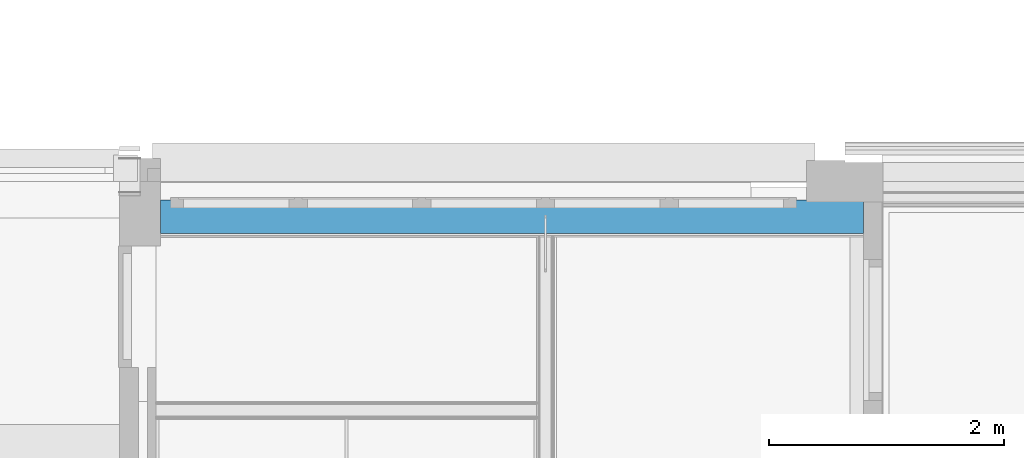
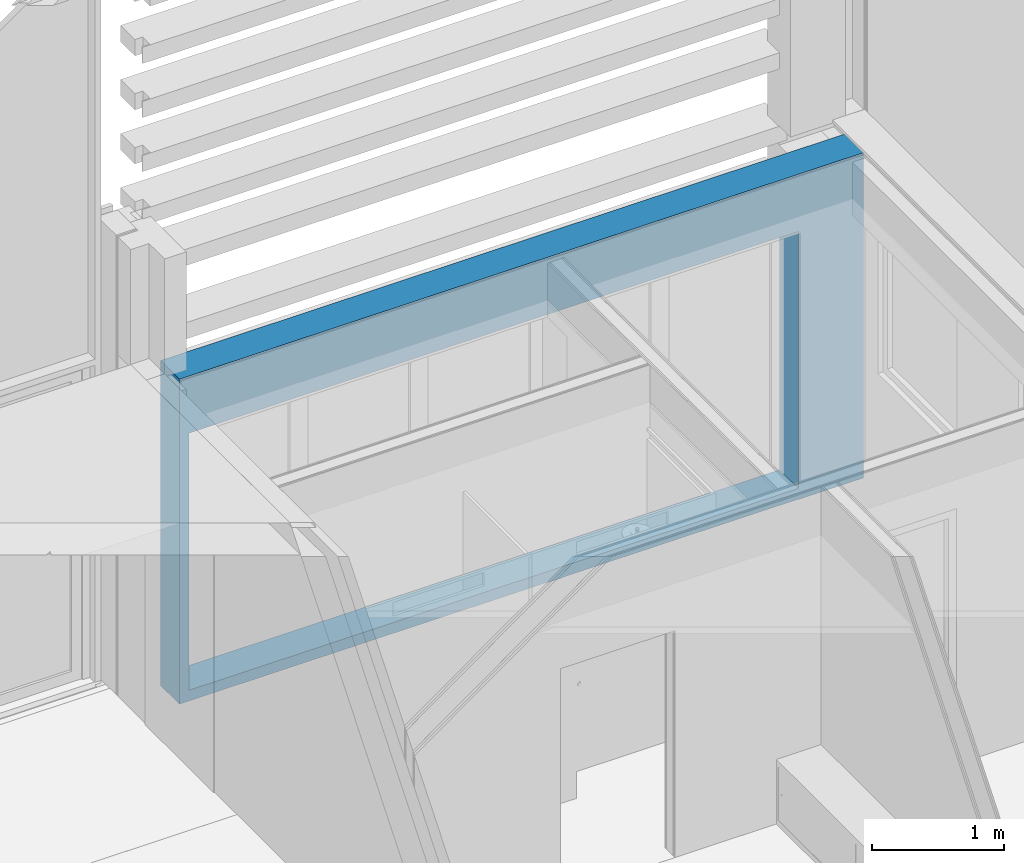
# One storey, part 28 of 109: 1 building element part, 1 opening, 1 element without a shape of its own.
"""IFC2X3 building model written with IfcOpenShell, lengths in millimetres."""

from ifc_helpers import new_model, entity, si_unit, converted_unit, derived_unit, money_unit, direction, frame, origin_with_axes, place, context, subcontext, project, spatial, faceted_brep, material, type_object, element, aggregate, save


model = new_model("IFC2X3")

# Units and contexts
model_context = context("Model", 3, precision=0.01, world=origin_with_axes(), true_north=direction((0.0, 1.0)))
body_context = subcontext(model_context, "Body", "Model", "MODEL_VIEW")
ifc_project = project(units=[si_unit("LENGTHUNIT", "METRE", prefix="MILLI"), si_unit("AREAUNIT", "SQUARE_METRE"), si_unit("VOLUMEUNIT", "CUBIC_METRE"), converted_unit("PLANEANGLEUNIT", "DEGREE", entity("IfcPlaneAngleMeasure", 0.0174532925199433), si_unit("PLANEANGLEUNIT", "RADIAN"), dimensions=[0, 0, 0, 0, 0, 0, 0]), money_unit("EUR"), converted_unit("TIMEUNIT", "Year", entity("IfcTimeMeasure", 31557600.0), si_unit("TIMEUNIT", "SECOND"), dimensions=[0, 0, 1, 0, 0, 0, 0]), si_unit("MASSUNIT", "GRAM", prefix="KILO"), si_unit("THERMODYNAMICTEMPERATUREUNIT", "DEGREE_CELSIUS"), si_unit("LUMINOUSINTENSITYUNIT", "LUMEN"), si_unit("ENERGYUNIT", "JOULE", prefix="MEGA"), derived_unit("THERMALCONDUCTANCEUNIT", [(si_unit("POWERUNIT", "WATT"), 1), (si_unit("LENGTHUNIT", "METRE"), -1), (si_unit("THERMODYNAMICTEMPERATUREUNIT", "KELVIN"), -1)]), derived_unit("SPECIFICHEATCAPACITYUNIT", [(si_unit("ENERGYUNIT", "JOULE"), 1), (si_unit("MASSUNIT", "GRAM", prefix="KILO"), -1), (si_unit("THERMODYNAMICTEMPERATUREUNIT", "KELVIN"), -1)]), derived_unit("MASSDENSITYUNIT", [(si_unit("MASSUNIT", "GRAM", prefix="KILO"), 1), (si_unit("VOLUMEUNIT", "CUBIC_METRE"), -1)])], contexts=[model_context])

# Site, building, storey
site_placement = place(None, origin_with_axes())
site = spatial("IfcSite", under=ifc_project, at=site_placement, Name="<site naam>", CompositionType="ELEMENT")
building_placement = place(site_placement, origin_with_axes())
building = spatial("IfcBuilding", under=site, at=building_placement, Name="<Naam gebouw>", CompositionType="ELEMENT")
storey_placement = place(building_placement, origin_with_axes())
storey = spatial("IfcBuildingStorey", under=building, at=storey_placement, Name="00 Begane grond", CompositionType="ELEMENT", Elevation=0.0)

# Wall, opening, building element part
wall_type = type_object("IfcWallType", Name="HSB_285 zonder gevelbeplating 313", PredefinedType="NOTDEFINED")
wall_placement = place(storey_placement, frame((52175.00000000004, 19840.00019144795, 0.0), z_axis=(0.0, 0.0, 1.0), x_axis=(1.0, 0.0, 0.0)))
wall = element("IfcWall", 1, at=wall_placement, inside=storey, type_object=wall_type, Name="22_Binnenwand_HSB_285")
opening_placement = place(wall_placement, frame((2750.436403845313, 0.0, 102.5), z_axis=(0.0, 0.0, 1.0), x_axis=(1.0, 0.0, 0.0)))
element("IfcOpeningElement", 2, at=opening_placement, cuts=wall, Name="22_BU-B-02_305", context=body_context, shape_type="Brep", body=[
    faceted_brep([(-2664.461586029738, -313.5000000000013, 2377.0), (-2664.461586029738, -313.5000000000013, 0.0), (2664.461586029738, -313.5000000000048, 0.0), (2664.461586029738, -313.5000000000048, 2377.0), (-2664.461586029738, 1.000000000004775, 2377.0), (-2664.461586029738, 1.000000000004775, 0.0), (2664.461586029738, 1.000000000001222, 0.0), (2664.461586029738, 1.000000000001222, 2377.0)], [[[0, 1, 2, 3]], [[4, 5, 1, 0]], [[5, 6, 2, 1]], [[6, 7, 3, 2]], [[7, 4, 0, 3]], [[6, 5, 4, 7]]]),
])
ifc_material = material(Name="isolatie_houtvezel")
building_element_part_placement = place(wall_placement, origin_with_axes())
building_element_part = element("IfcBuildingElementPart", 3, at=building_element_part_placement, material=ifc_material, Name="isolatie_houtvezel", context=body_context, shape_type="Brep", body=[
    faceted_brep([(3218.299999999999, -109.0001828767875, 0.0), (-3.229978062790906e-05, -109.0001828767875, 0.0), (0.0, 0.0, 0.0), (5982.782844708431, 0.0, 0.0), (5982.782844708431, -285.0000000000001, 0.0), (5414.897989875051, -285.0000000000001, 0.0), (5414.897989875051, -66.19999999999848, 0.0), (3351.698004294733, -66.19999999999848, 0.0), (3351.698004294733, -285.0000000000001, 0.0), (3218.299999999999, -285.0000000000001, 0.0), (3218.299999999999, -109.0001828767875, 2.999999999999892), (-3.229978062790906e-05, -109.0001828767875, 2.999999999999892), (-3.229978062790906e-05, -285.0000000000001, 2.999999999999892), (0.0, -285.0000000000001, 3008.0), (0.0, 0.0, 3008.0), (5982.782844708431, 0.0, 3008.0), (5982.782844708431, -285.0000000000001, 3008.0), (3218.299999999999, -285.0000000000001, 2.999999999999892), (3351.698004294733, -285.0000000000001, 2.999999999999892), (5414.897989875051, -285.0000000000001, 2.999999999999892), (5414.897989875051, -66.19999999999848, 2.999999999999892), (3351.698004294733, -66.19999999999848, 2.999999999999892)], [[[0, 1, 2, 3, 4, 5, 6, 7, 8, 9]], [[0, 10, 11, 1]], [[11, 12, 13, 14, 2, 1]], [[14, 15, 3, 2]], [[15, 16, 4, 3]], [[17, 9, 8, 18, 19, 5, 4, 16, 13, 12]], [[6, 5, 19, 20]], [[7, 6, 20, 21]], [[8, 7, 21, 18]], [[0, 9, 17, 10]], [[10, 17, 12, 11]], [[13, 16, 15, 14]], [[19, 18, 21, 20]]]),
])
aggregate(wall, [building_element_part])

save(model, "model.ifc")
